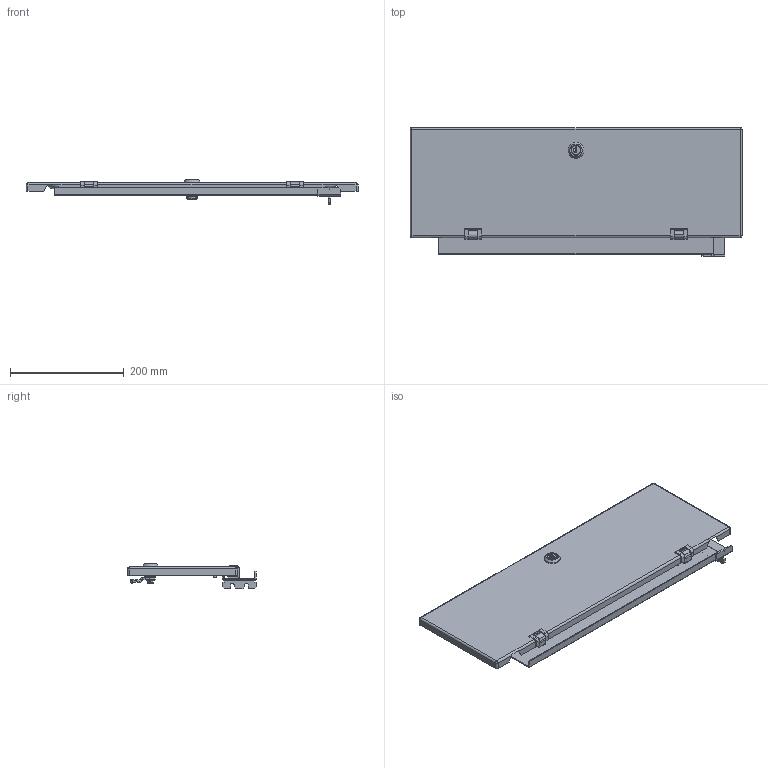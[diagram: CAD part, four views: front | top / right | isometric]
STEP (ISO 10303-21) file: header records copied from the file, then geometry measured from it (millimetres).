
FILE_DESCRIPTION(('STEP AP214'), '1');
FILE_NAME('MKM 160.60.60 仃圄 觐祜蝈痦', '', ('UNSPECIFIED'), ('UNSPECIFIED'), 'C3D Converter', 'C3D Toolkit', '');
FILE_SCHEMA(('AUTOMOTIVE_DESIGN { 1 0 10303 214 3 1 1}'));
Length unit declared in the file: millimetre
Products named in the file (3): MKM 160.60.60 Шкаф компьютерный; MKM 160.60.60 Дверь откидная_MKM 160.60.60 \X2\201E045E04X00430043C\X0\ 甛X2\043204040401\X0\き燶X2\043F\X0\; GB 60 СБ Планка разделительная_GB 60-01 CЃ
Assembly tree (2 placements, depth 2):
  MKM 160.60.60 Шкаф компьютерный
    MKM 160.60.60 Дверь откидная_MKM 160.60.60 \X2\201E045E04X00430043C\X0\ 甛X2\043204040401\X0\き燶X2\043F\X0\
    GB 60 СБ Планка разделительная_GB 60-01 CЃ
Bounding box: 585 x 227 x 44.67 mm (x, y, z)
Volume: 474112.3 mm3; surface area: 430089.2 mm2
Topology: 22 solids, 24 shells, 1034 faces, 2755 edges, 1761 vertices
Faces by surface type: plane 690, cylinder 237, torus 37, bspline 30, sphere 23, cone 17
Full cylindrical faces by diameter (mm): 5.5 x3, 6 x6, 6.2 x2, 6.3 x4, 8 x1, 9.3 x1, 12 x2, 12.05 x1, 13.5 x1, 14 x1, 16.1 x1, 16.7 x1, 17.2 x1, 19.8 x1, 22 x1, 28 x1
Entity records: 48042 total; most frequent: CARTESIAN_POINT 14327, ORIENTED_EDGE 5292, DIRECTION 5031, EDGE_CURVE 2648, LINE 1889, VECTOR 1889, VERTEX_POINT 1733, AXIS2_PLACEMENT_3D 1571
